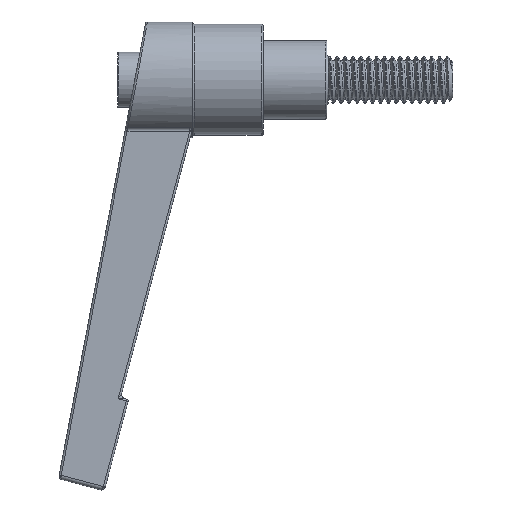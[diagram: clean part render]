
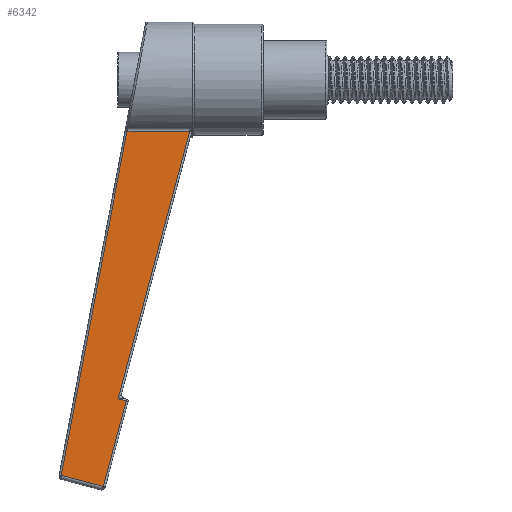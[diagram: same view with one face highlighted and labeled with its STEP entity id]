
A CAD part, left-side view. The second image highlights one B-rep face of the part: STEP entity #6342.
In plain terms, the highlighted planar face has unit normal (-1, 0, 0).
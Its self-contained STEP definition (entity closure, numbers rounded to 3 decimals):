
#236 = LINE ( 'NONE', #10337, #18355 ) ;
#400 = LINE ( 'NONE', #10499, #26791 ) ;
#1904 = CARTESIAN_POINT ( 'NONE',  ( -3.9, 8.218, -0.271 ) ) ;
#1911 = ORIENTED_EDGE ( 'NONE', *, *, #28251, .T. ) ;
#1953 = DIRECTION ( 'NONE',  ( 0., 0.966, 0.258 ) ) ;
#2182 = ORIENTED_EDGE ( 'NONE', *, *, #14675, .T. ) ;
#2279 = EDGE_LOOP ( 'NONE', ( #2734, #2182, #15914, #1911, #25002, #12158, #28294 ) ) ;
#2734 = ORIENTED_EDGE ( 'NONE', *, *, #27986, .T. ) ;
#4197 = LINE ( 'NONE', #14277, #27883 ) ;
#5469 = DIRECTION ( 'NONE',  ( 0., 0., 1. ) ) ;
#6171 = CARTESIAN_POINT ( 'NONE',  ( -3.9, 8.179, -0.271 ) ) ;
#6342 = ADVANCED_FACE ( 'NONE', ( #30611 ), #7952, .T. ) ;
#6378 = CARTESIAN_POINT ( 'NONE',  ( -3.9, 9.428, -34.312 ) ) ;
#6913 = VERTEX_POINT ( 'NONE', #29582 ) ;
#7952 = PLANE ( 'NONE',  #17990 ) ;
#8233 = VECTOR ( 'NONE', #1953, 1000. ) ;
#9543 = CARTESIAN_POINT ( 'NONE',  ( -3.9, 0.242, 0.065 ) ) ;
#10227 = EDGE_CURVE ( 'NONE', #27186, #23239, #14525, .T. ) ;
#10337 = CARTESIAN_POINT ( 'NONE',  ( -3.9, 0., -0.271 ) ) ;
#10499 = CARTESIAN_POINT ( 'NONE',  ( -3.9, 8.347, -34.342 ) ) ;
#11066 = CARTESIAN_POINT ( 'NONE',  ( -3.9, 11.316, -45.452 ) ) ;
#11986 = CARTESIAN_POINT ( 'NONE',  ( -3.9, 8.257, -0.267 ) ) ;
#12158 = ORIENTED_EDGE ( 'NONE', *, *, #10227, .T. ) ;
#12491 = LINE ( 'NONE', #22593, #31162 ) ;
#14277 = CARTESIAN_POINT ( 'NONE',  ( -3.9, 11.316, -45.452 ) ) ;
#14525 = LINE ( 'NONE', #24623, #8233 ) ;
#14675 = EDGE_CURVE ( 'NONE', #21196, #6913, #21465, .T. ) ;
#15914 = ORIENTED_EDGE ( 'NONE', *, *, #29611, .T. ) ;
#16852 = CARTESIAN_POINT ( 'NONE',  ( -3.9, 16.664, -44.023 ) ) ;
#17944 = CARTESIAN_POINT ( 'NONE',  ( -3.9, 8.411, -34.584 ) ) ;
#17990 = AXIS2_PLACEMENT_3D ( 'NONE', #18044, #28136, #5469 ) ;
#18044 = CARTESIAN_POINT ( 'NONE',  ( -3.9, 0., 0. ) ) ;
#18090 = VERTEX_POINT ( 'NONE', #16852 ) ;
#18355 = VECTOR ( 'NONE', #20429, 1000. ) ;
#19293 = EDGE_CURVE ( 'NONE', #23239, #26855, #32208, .T. ) ;
#19622 = DIRECTION ( 'NONE',  ( 0., -0.258, 0.966 ) ) ;
#20429 = DIRECTION ( 'NONE',  ( 0., 1., 0. ) ) ;
#20590 = DIRECTION ( 'NONE',  ( 0., -0.258, 0.966 ) ) ;
#21064 = VECTOR ( 'NONE', #19622, 1000. ) ;
#21196 = VERTEX_POINT ( 'NONE', #6171 ) ;
#21465 = B_SPLINE_CURVE_WITH_KNOTS ( 'NONE', 3,
 ( #24574, #1904, #11986, #22090 ),
 .UNSPECIFIED., .F., .F.,
 ( 4, 4 ),
 ( 0., 0. ),
 .UNSPECIFIED. ) ;
#22090 = CARTESIAN_POINT ( 'NONE',  ( -3.9, 8.295, -0.26 ) ) ;
#22593 = CARTESIAN_POINT ( 'NONE',  ( -3.9, 16.754, -44.498 ) ) ;
#23093 = CARTESIAN_POINT ( 'NONE',  ( -3.9, 0.331, -0.271 ) ) ;
#23239 = VERTEX_POINT ( 'NONE', #6378 ) ;
#24374 = DIRECTION ( 'NONE',  ( 0., -0.966, -0.258 ) ) ;
#24574 = CARTESIAN_POINT ( 'NONE',  ( -3.9, 8.179, -0.271 ) ) ;
#24623 = CARTESIAN_POINT ( 'NONE',  ( -3.9, 9.187, -34.377 ) ) ;
#25002 = ORIENTED_EDGE ( 'NONE', *, *, #28031, .T. ) ;
#26791 = VECTOR ( 'NONE', #20590, 1000. ) ;
#26855 = VERTEX_POINT ( 'NONE', #23093 ) ;
#27186 = VERTEX_POINT ( 'NONE', #17944 ) ;
#27883 = VECTOR ( 'NONE', #24374, 1000. ) ;
#27986 = EDGE_CURVE ( 'NONE', #26855, #21196, #236, .T. ) ;
#28031 = EDGE_CURVE ( 'NONE', #31003, #27186, #400, .T. ) ;
#28136 = DIRECTION ( 'NONE',  ( -1., 0., 0. ) ) ;
#28251 = EDGE_CURVE ( 'NONE', #18090, #31003, #4197, .T. ) ;
#28294 = ORIENTED_EDGE ( 'NONE', *, *, #19293, .T. ) ;
#29582 = CARTESIAN_POINT ( 'NONE',  ( -3.9, 8.295, -0.26 ) ) ;
#29611 = EDGE_CURVE ( 'NONE', #6913, #18090, #12491, .T. ) ;
#30611 = FACE_OUTER_BOUND ( 'NONE', #2279, .T. ) ;
#31003 = VERTEX_POINT ( 'NONE', #11066 ) ;
#31162 = VECTOR ( 'NONE', #32703, 1000. ) ;
#32208 = LINE ( 'NONE', #9543, #21064 ) ;
#32703 = DIRECTION ( 'NONE',  ( 0., 0.188, -0.982 ) ) ;
